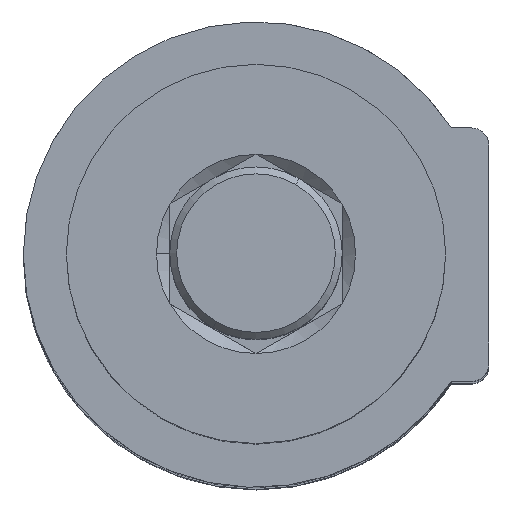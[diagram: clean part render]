
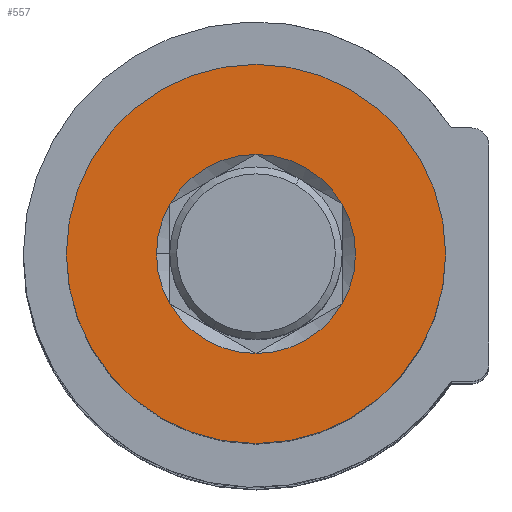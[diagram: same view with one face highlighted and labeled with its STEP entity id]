
A CAD part, top view. The second image highlights one B-rep face of the part: STEP entity #557.
In plain terms, the highlighted planar face has unit normal (0, 0, 1) as drawn and (0, 0, -1) by its records, which use the part's own axes.
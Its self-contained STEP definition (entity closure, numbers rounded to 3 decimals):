
#23 = CARTESIAN_POINT ( 'NONE',  ( 0., 0., -46.7 ) ) ;
#39 = CARTESIAN_POINT ( 'NONE',  ( -5.774, 0., -46.7 ) ) ;
#64 = CARTESIAN_POINT ( 'NONE',  ( 0., 5., -46.7 ) ) ;
#117 = DIRECTION ( 'NONE',  ( 1., 0., 0. ) ) ;
#123 = CIRCLE ( 'NONE', #2374, 5.774 ) ;
#128 = CIRCLE ( 'NONE', #2369, 11. ) ;
#140 = VERTEX_POINT ( 'NONE', #2266 ) ;
#148 = CIRCLE ( 'NONE', #734, 5.774 ) ;
#189 = AXIS2_PLACEMENT_3D ( 'NONE', #64, #3234, #2474 ) ;
#215 = DIRECTION ( 'NONE',  ( -1., 0., 0. ) ) ;
#222 = CIRCLE ( 'NONE', #3095, 5.774 ) ;
#236 = ORIENTED_EDGE ( 'NONE', *, *, #2124, .F. ) ;
#246 = ORIENTED_EDGE ( 'NONE', *, *, #2129, .F. ) ;
#333 = DIRECTION ( 'NONE',  ( -1., 0., 0. ) ) ;
#395 = VERTEX_POINT ( 'NONE', #2109 ) ;
#432 = ORIENTED_EDGE ( 'NONE', *, *, #2286, .F. ) ;
#513 = CIRCLE ( 'NONE', #2870, 11. ) ;
#527 = CARTESIAN_POINT ( 'NONE',  ( 0., 0., -46.7 ) ) ;
#557 = ADVANCED_FACE ( 'NONE', ( #2737, #841 ), #2233, .F. ) ;
#717 = CARTESIAN_POINT ( 'NONE',  ( -11., 0., -46.7 ) ) ;
#734 = AXIS2_PLACEMENT_3D ( 'NONE', #2606, #1137, #2878 ) ;
#778 = EDGE_CURVE ( 'NONE', #797, #2455, #1227, .T. ) ;
#797 = VERTEX_POINT ( 'NONE', #39 ) ;
#823 = DIRECTION ( 'NONE',  ( -1., 0., 0. ) ) ;
#841 = FACE_BOUND ( 'NONE', #2853, .T. ) ;
#903 = DIRECTION ( 'NONE',  ( 0., 0., 1. ) ) ;
#1113 = CIRCLE ( 'NONE', #1376, 5.774 ) ;
#1137 = DIRECTION ( 'NONE',  ( 0., 0., -1. ) ) ;
#1167 = CARTESIAN_POINT ( 'NONE',  ( 0., 0., -46.7 ) ) ;
#1227 = CIRCLE ( 'NONE', #1798, 5.774 ) ;
#1262 = AXIS2_PLACEMENT_3D ( 'NONE', #2631, #1881, #215 ) ;
#1270 = EDGE_LOOP ( 'NONE', ( #3071, #2476 ) ) ;
#1283 = AXIS2_PLACEMENT_3D ( 'NONE', #1167, #2904, #1439 ) ;
#1290 = VERTEX_POINT ( 'NONE', #717 ) ;
#1376 = AXIS2_PLACEMENT_3D ( 'NONE', #2943, #1465, #3202 ) ;
#1404 = CIRCLE ( 'NONE', #1262, 5.774 ) ;
#1439 = DIRECTION ( 'NONE',  ( -1., 0., 0. ) ) ;
#1465 = DIRECTION ( 'NONE',  ( 0., 0., -1. ) ) ;
#1632 = CIRCLE ( 'NONE', #1283, 5.774 ) ;
#1639 = CARTESIAN_POINT ( 'NONE',  ( 0., 0., -46.7 ) ) ;
#1713 = CARTESIAN_POINT ( 'NONE',  ( -5., -2.887, -46.7 ) ) ;
#1795 = DIRECTION ( 'NONE',  ( 0., 0., 1. ) ) ;
#1798 = AXIS2_PLACEMENT_3D ( 'NONE', #23, #1963, #333 ) ;
#1881 = DIRECTION ( 'NONE',  ( 0., 0., -1. ) ) ;
#1893 = DIRECTION ( 'NONE',  ( -1., 0., 0. ) ) ;
#1929 = CARTESIAN_POINT ( 'NONE',  ( -5., 2.887, -46.7 ) ) ;
#1963 = DIRECTION ( 'NONE',  ( 0., 0., -1. ) ) ;
#2109 = CARTESIAN_POINT ( 'NONE',  ( 5., -2.887, -46.7 ) ) ;
#2124 = EDGE_CURVE ( 'NONE', #2349, #2564, #222, .T. ) ;
#2129 = EDGE_CURVE ( 'NONE', #395, #2349, #123, .T. ) ;
#2183 = EDGE_CURVE ( 'NONE', #2455, #140, #148, .T. ) ;
#2233 = PLANE ( 'NONE',  #189 ) ;
#2266 = CARTESIAN_POINT ( 'NONE',  ( 0., 5.774, -46.7 ) ) ;
#2275 = CARTESIAN_POINT ( 'NONE',  ( 5., 2.887, -46.7 ) ) ;
#2286 = EDGE_CURVE ( 'NONE', #2564, #797, #1404, .T. ) ;
#2327 = ORIENTED_EDGE ( 'NONE', *, *, #2540, .F. ) ;
#2349 = VERTEX_POINT ( 'NONE', #2599 ) ;
#2359 = DIRECTION ( 'NONE',  ( 0., 0., -1. ) ) ;
#2369 = AXIS2_PLACEMENT_3D ( 'NONE', #3272, #1795, #117 ) ;
#2374 = AXIS2_PLACEMENT_3D ( 'NONE', #1639, #3349, #1893 ) ;
#2408 = CARTESIAN_POINT ( 'NONE',  ( 0., 0., -46.7 ) ) ;
#2455 = VERTEX_POINT ( 'NONE', #1929 ) ;
#2467 = EDGE_CURVE ( 'NONE', #2877, #395, #1632, .T. ) ;
#2474 = DIRECTION ( 'NONE',  ( 1., 0., 0. ) ) ;
#2476 = ORIENTED_EDGE ( 'NONE', *, *, #2500, .F. ) ;
#2500 = EDGE_CURVE ( 'NONE', #1290, #3399, #513, .T. ) ;
#2540 = EDGE_CURVE ( 'NONE', #140, #2877, #1113, .T. ) ;
#2564 = VERTEX_POINT ( 'NONE', #1713 ) ;
#2587 = CARTESIAN_POINT ( 'NONE',  ( 11., 0., -46.7 ) ) ;
#2599 = CARTESIAN_POINT ( 'NONE',  ( 0., -5.774, -46.7 ) ) ;
#2606 = CARTESIAN_POINT ( 'NONE',  ( 0., 0., -46.7 ) ) ;
#2631 = CARTESIAN_POINT ( 'NONE',  ( 0., 0., -46.7 ) ) ;
#2643 = DIRECTION ( 'NONE',  ( 1., 0., 0. ) ) ;
#2737 = FACE_OUTER_BOUND ( 'NONE', #1270, .T. ) ;
#2845 = EDGE_CURVE ( 'NONE', #3399, #1290, #128, .T. ) ;
#2853 = EDGE_LOOP ( 'NONE', ( #3065, #2327, #3122, #3038, #432, #236, #246 ) ) ;
#2870 = AXIS2_PLACEMENT_3D ( 'NONE', #2408, #903, #2643 ) ;
#2877 = VERTEX_POINT ( 'NONE', #2275 ) ;
#2878 = DIRECTION ( 'NONE',  ( -1., 0., 0. ) ) ;
#2904 = DIRECTION ( 'NONE',  ( 0., 0., -1. ) ) ;
#2943 = CARTESIAN_POINT ( 'NONE',  ( 0., 0., -46.7 ) ) ;
#3038 = ORIENTED_EDGE ( 'NONE', *, *, #778, .F. ) ;
#3065 = ORIENTED_EDGE ( 'NONE', *, *, #2467, .F. ) ;
#3071 = ORIENTED_EDGE ( 'NONE', *, *, #2845, .F. ) ;
#3095 = AXIS2_PLACEMENT_3D ( 'NONE', #527, #2359, #823 ) ;
#3122 = ORIENTED_EDGE ( 'NONE', *, *, #2183, .F. ) ;
#3202 = DIRECTION ( 'NONE',  ( -1., 0., 0. ) ) ;
#3234 = DIRECTION ( 'NONE',  ( 0., 0., 1. ) ) ;
#3272 = CARTESIAN_POINT ( 'NONE',  ( 0., 0., -46.7 ) ) ;
#3349 = DIRECTION ( 'NONE',  ( 0., 0., -1. ) ) ;
#3399 = VERTEX_POINT ( 'NONE', #2587 ) ;
